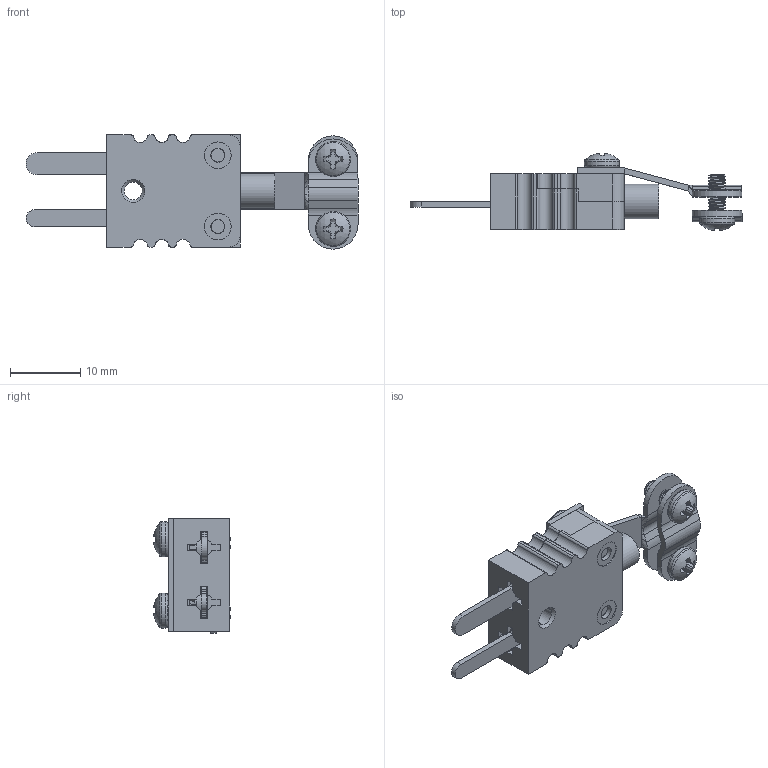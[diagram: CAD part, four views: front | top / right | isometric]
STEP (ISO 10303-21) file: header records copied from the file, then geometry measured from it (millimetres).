
FILE_DESCRIPTION(/* description */ (''),/* implementation_level */ '2;1');
FILE_NAME(/* name */ 'C:\Users\Justin\Documents\CAD\The Sensor Connection\Temperature Sensors\Thermocouple Accessories\Thermocouple Connectors\CON-MP-MINI-K\CON-MP-MINI-K Pack N Go\CON-MP-MINI-K.stp',/* time_stamp */ '2022-02-07T12:04:24-05:00',/* author */ ('Justin'),/* organization */ (''),/* preprocessor_version */ 'ST-DEVELOPER v18.1',/* originating_system */ 'Autodesk Inventor 2022',/* authorisation */ '');
FILE_SCHEMA (('AUTOMOTIVE_DESIGN { 1 0 10303 214 3 1 1 }'));
Length unit declared in the file: inch
Products named in the file (12): CON-MP-MINI-K; CON-MP-MINI-ECON Type K; Type K-MP; MP-K-1; MP-K-2; Type K-MP--Cover; Screw GB 946 M2.5 x 1; Grommet; Mini-Plug Clamp 1 of 2; Mini-Plug Clamp 2 of 2; 92000A105_Passivated 18-8 Stainless Steel Pan Head ; 92000A104_Passivated 18-8 Stainless Steel Pan Head Phillips Screws
Assembly tree (14 placements, depth 3):
  CON-MP-MINI-K
    CON-MP-MINI-ECON Type K
      Type K-MP
      MP-K-1
      MP-K-2
      Type K-MP--Cover
      Screw GB 946 M2.5 x 1  x2
      Grommet
    Mini-Plug Clamp 1 of 2
    Mini-Plug Clamp 2 of 2
    92000A105_Passivated 18-8 Stainless Steel Pan Head   x2
    92000A104_Passivated 18-8 Stainless Steel Pan Head Phillips Screws  x2
Bounding box: 47.36 x 10.97 x 16.3 mm (x, y, z)
Volume: 2473.8 mm3; surface area: 4919.2 mm2
Topology: 18 solids, 18 shells, 625 faces, 1679 edges, 1110 vertices
Faces by surface type: plane 292, cylinder 264, cone 27, bspline 22, sphere 12, torus 8
Full cylindrical faces by diameter (mm): 1.27 x1, 1.524 x1, 1.915 x58, 2.007 x4, 2.095 x2, 2.261 x2, 2.43 x2, 2.5 x56, 2.54 x3, 2.667 x3, 2.972 x2, 3.175 x2, 3.746 x4, 3.81 x4, 4.699 x2, 4.889 x1, 5 x6, 5.08 x2, 6.35 x1
Entity records: 21536 total; most frequent: CARTESIAN_POINT 9030, ORIENTED_EDGE 2556, DIRECTION 2474, EDGE_CURVE 1278, AXIS2_PLACEMENT_3D 870, VERTEX_POINT 844, LINE 734, VECTOR 734
